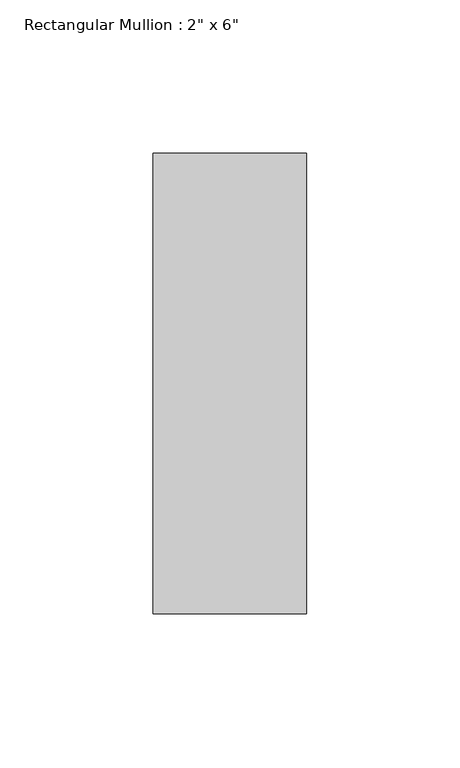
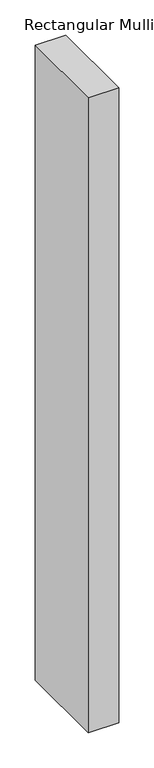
"""IFC4 building model written with IfcOpenShell, lengths in millimetres: member geometry."""

from ifc_helpers import new_model, si_unit, frame, origin, place, context, project, spatial, polyline, outline, extrude, source, transform, mapped, element, save


def member_498097e3(model_context):
    return source(origin(), model_context, "Body", "SweptSolid", [
        extrude(outline(polyline([(25.0, 0.0), (25.0, -150.0), (-25.0, -150.0), (-25.0, 0.0), (25.0, 0.0)])), frame((0.0, 0.0, -1099.9999995), z_axis=(0.0, 0.0, 1.0), x_axis=(1.0, 0.0, 0.0)), (0.0, 0.0, 1.0), 1099.9999995),
    ])


if __name__ == "__main__":
    model = new_model("IFC4")
    model_context = context("Model", 3, world=origin())
    ifc_project = project(units=[si_unit("LENGTHUNIT", "METRE", prefix="MILLI")], contexts=[model_context])
    site = spatial("IfcSite", under=ifc_project)
    building = spatial("IfcBuilding", under=site)
    placement = place(None, origin())
    member_shape = member_498097e3(model_context)
    element("IfcMember", 1, ObjectType="Rectangular Mullion : 2\" x 6\"", at=placement, inside=building, context=model_context, shape_type="MappedRepresentation", body=[
        mapped(member_shape, transform((0.0, 0.0, 0.0), x_axis=(1.0, 0.0, 0.0), y_axis=(0.0, 1.0, 0.0), z_axis=(0.0, 0.0, 1.0))),
    ])
    save(model, "model.ifc")
